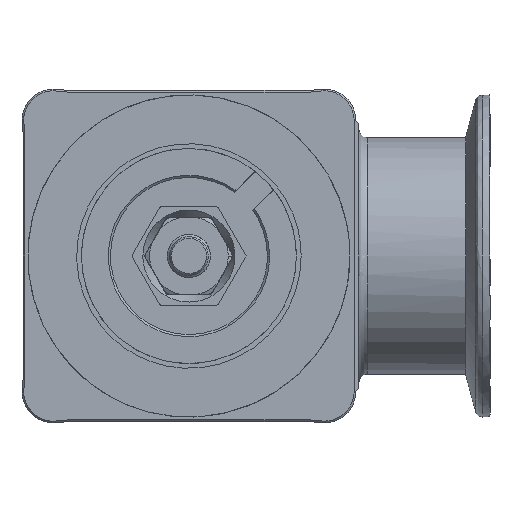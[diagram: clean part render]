
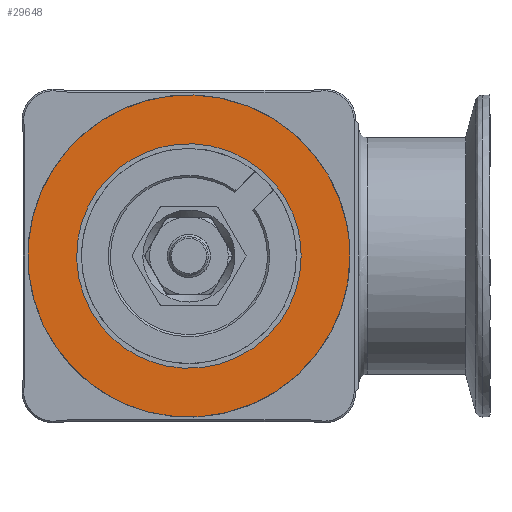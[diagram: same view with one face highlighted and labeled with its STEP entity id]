
A CAD part, front view. The second image highlights one B-rep face of the part: STEP entity #29648.
In plain terms, the highlighted free-form (B-spline) face has degree [1, 1] with [2, 2] control points.
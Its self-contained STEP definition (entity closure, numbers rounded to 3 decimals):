
#29590=CARTESIAN_POINT('V59',(26.1,-32.5,
   0.0));
#29591=VERTEX_POINT('V59',#29590);
#29599=CARTESIAN_POINT('E94',(26.1,-32.5,
   0.0));
#29600=CARTESIAN_POINT('E94',(26.1,-32.5,
   -45.207));
#29601=CARTESIAN_POINT('E94',(-13.05,
   -32.5,-22.603));
#29602=CARTESIAN_POINT('E94',(-52.2,
   -32.5,0.));
#29603=CARTESIAN_POINT('E94',(-13.05,
   -32.5,22.603));
#29604=CARTESIAN_POINT('E94',(26.1,-32.5,
   45.207));
#29605=CARTESIAN_POINT('E94',(26.1,-32.5,
   0.0));
#29613=(BOUNDED_CURVE()B_SPLINE_CURVE(2,(#29599,#29600,#29601,
   #29602,#29603,#29604,#29605),.CIRCULAR_ARC.,.T.,.U.)
   B_SPLINE_CURVE_WITH_KNOTS((3,2,2,3),(0.0,0.333,
   0.667,1.0),.UNSPECIFIED.)CURVE()
   GEOMETRIC_REPRESENTATION_ITEM()RATIONAL_B_SPLINE_CURVE((1.0,
   0.5,1.0,0.5,1.0,0.5,1.0)
   )REPRESENTATION_ITEM('E94'));
#29614=EDGE_CURVE('E94',#29591,#29591,#29613,.T.);
#29619=CARTESIAN_POINT('F39',(41.198,-32.5,
   -41.198));
#29620=CARTESIAN_POINT('F39',(41.198,-32.5,
   41.198));
#29621=CARTESIAN_POINT('F39',(-41.198,
   -32.5,-41.198));
#29622=CARTESIAN_POINT('F39',(-41.198,
   -32.5,41.198));
#29623=QUASI_UNIFORM_SURFACE('F39',1,1,((#29619,#29621),(#29620,
   #29622)),.PLANE_SURF.,.F.,.F.,.U.);
#29624=CARTESIAN_POINT('V58',(37.452,-32.5,
   0.0));
#29625=VERTEX_POINT('V58',#29624);
#29626=CARTESIAN_POINT('E93',(37.452,-32.5,
   0.0));
#29627=CARTESIAN_POINT('E93',(37.452,-32.5,
   -64.87));
#29628=CARTESIAN_POINT('E93',(-18.726,
   -32.5,-32.435));
#29629=CARTESIAN_POINT('E93',(-74.905,
   -32.5,0.));
#29630=CARTESIAN_POINT('E93',(-18.726,
   -32.5,32.435));
#29631=CARTESIAN_POINT('E93',(37.452,-32.5,
   64.87));
#29632=CARTESIAN_POINT('E93',(37.452,-32.5,
   0.0));
#29640=(BOUNDED_CURVE()B_SPLINE_CURVE(2,(#29626,#29627,#29628,
   #29629,#29630,#29631,#29632),.CIRCULAR_ARC.,.T.,.U.)
   B_SPLINE_CURVE_WITH_KNOTS((3,2,2,3),(0.0,70.167,
   140.334,210.501),.UNSPECIFIED.)CURVE()
   GEOMETRIC_REPRESENTATION_ITEM()RATIONAL_B_SPLINE_CURVE((1.0,
   0.5,1.0,0.5,1.0,0.5,1.0)
   )REPRESENTATION_ITEM('E93'));
#29641=EDGE_CURVE('E93',#29625,#29625,#29640,.T.);
#29642=ORIENTED_EDGE('E93',*,*,#29641,.T.);
#29643=EDGE_LOOP('F39',(#29642));
#29644=FACE_OUTER_BOUND('F39',#29643,.F.);
#29645=ORIENTED_EDGE('F40',*,*,#29614,.F.);
#29646=EDGE_LOOP('F39',(#29645));
#29647=FACE_BOUND('F39',#29646,.F.);
#29648=ADVANCED_FACE('F39',(#29644,#29647),#29623,.T.);
